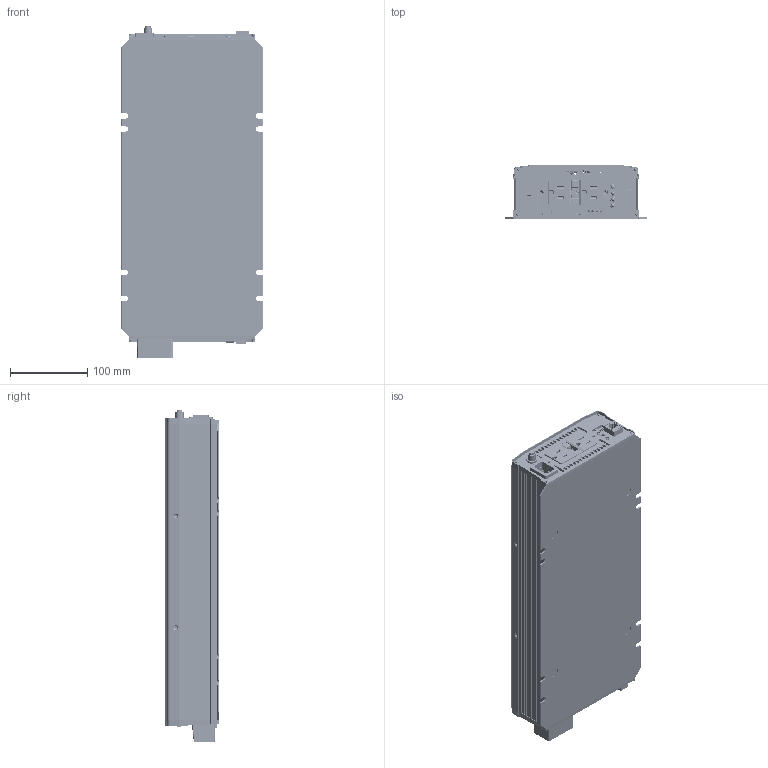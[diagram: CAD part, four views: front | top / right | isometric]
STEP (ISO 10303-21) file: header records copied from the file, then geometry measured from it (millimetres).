
FILE_DESCRIPTION(('Creo Elements/Direct Modeling STEP Export'),'2;1');
FILE_NAME('NTU-1700GFCI.stp','2022-03-22T10:44:54',(''),(''),'PTC Creo Elements/Direct Modeling STEP processor for AP214 (Solid Model)','PTC Creo Elements/Direct Modeling 19.0E 27-Jun-2016 (C) Parametric Technology GmbH','');
FILE_SCHEMA(('AUTOMOTIVE_DESIGN { 1 0 10303 214 1 1 1 1 }'));
Length unit declared in the file: millimetre
Products named in the file (280): 热敏.1; 热敏; 接地端子; _S___S_G_S_NA_S___S_H_X2_02DC__.PRT; TSW; TO247.22; TO247.21; TO247.12; TO247.11; TO220.27; TO220.26; TO220.25; TO220.24; TO220.23; TO220.22; TO220.21; TO220.18; TO220.17; TO220.16; TO220.15; TO220.14; TO220.13; TO220.12; TO220.11; THERMAL_PAD-2_5.PRT; THERMAL_PAD-1_8.PRT; SW65A; SI_PRT_16_1_1_5.PRT; PHONE_JACK_1.PRT; PCBF; PCBE; PCBC; PCBB; PCBA; PCB-D; P1.PRT; ON-OFF; MYLAR_PRT_16_1_1_5.PRT; MYLAR-2_5.PRT; MOSTO3P_1_1_PRT_16_1_1_5.PRT.42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
Assembly tree (117 placements, depth 2):
  热敏.1
    热敏.1
  热敏
    热敏
  接地端子
    接地端子
  _S___S_G_S_NA_S___S_H_X2_02DC__.PRT
    _S___S_G_S_NA_S___S_H_X2_02DC__.PRT
  TSW
    TSW
Bounding box: 183.99 x 70 x 431.06 mm (x, y, z)
Volume: 1451995.1 mm3; surface area: 1352265.2 mm2
Topology: 171 solids, 171 shells, 17998 faces, 45795 edges, 28228 vertices
Faces by surface type: plane 14455, cylinder 2382, cone 569, torus 231, bspline 228, sphere 124, extrusion 5, revolution 4
Entity records: 547317 total; most frequent: CARTESIAN_POINT 113212, ORIENTED_EDGE 91126, DIRECTION 84025, EDGE_CURVE 45551, VECTOR 36865, LINE 36860, VERTEX_POINT 28152, AXIS2_PLACEMENT_3D 23578
